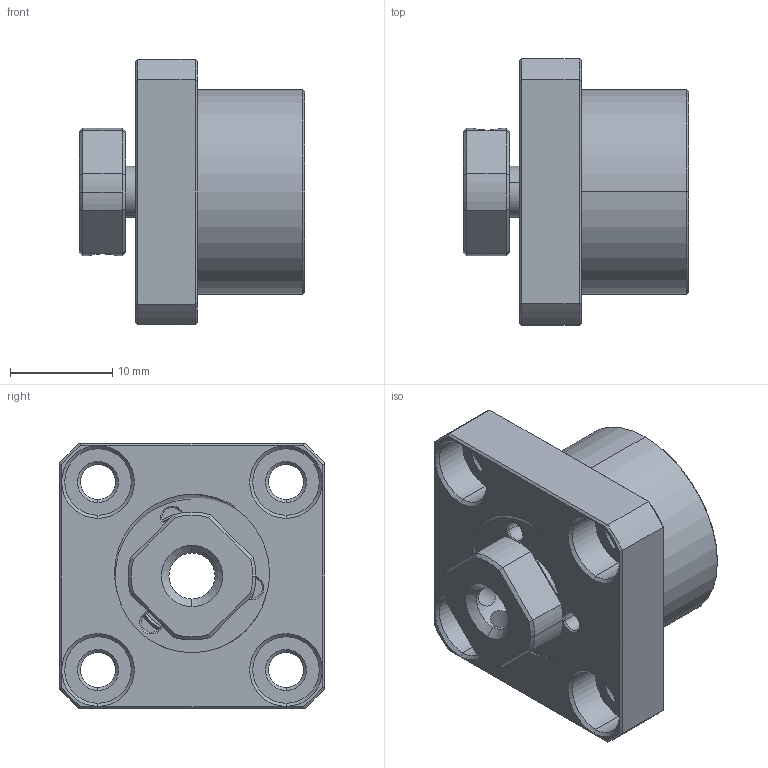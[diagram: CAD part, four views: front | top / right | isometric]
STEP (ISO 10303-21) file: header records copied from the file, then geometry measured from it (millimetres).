
FILE_DESCRIPTION (( 'STEP AP203' ), '1' );
FILE_NAME ('FK05²Õ¦X¥óA.STEP', '2017-12-28T05:39:11', ( '' ), ( '' ), 'SwSTEP 2.0', 'SolidWorks 2017', '' );
FILE_SCHEMA (( 'CONFIG_CONTROL_DESIGN' ));
Length unit declared in the file: millimetre
Products named in the file (1): FK05組合件A
Bounding box: 22 x 26 x 26 mm (x, y, z)
Surface area: 4072.6 mm2 (no closed solid volume)
Topology: 0 solids, 7 shells, 171 faces, 398 edges, 240 vertices
Faces by surface type: cylinder 62, cone 58, plane 38, torus 8, bspline 5
Entity records: 5719 total; most frequent: CARTESIAN_POINT 1778, DIRECTION 850, ORIENTED_EDGE 745, EDGE_CURVE 398, AXIS2_PLACEMENT_3D 353, VERTEX_POINT 240, EDGE_LOOP 199, CIRCLE 186
